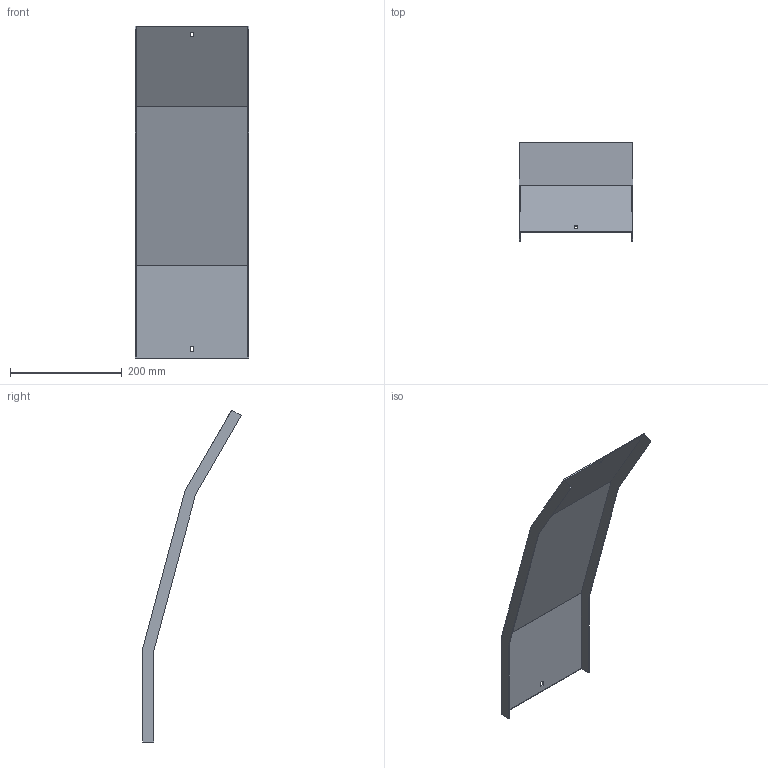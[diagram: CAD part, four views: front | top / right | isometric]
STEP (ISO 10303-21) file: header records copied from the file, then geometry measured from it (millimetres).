
FILE_DESCRIPTION (( 'STEP AP214' ), '1' );
FILE_NAME ('35N5J200.step', '2025-02-21T10:29:33', ( '' ), ( '' ), 'SwSTEP 2.0', 'SolidWorks 2023', '' );
FILE_SCHEMA (( 'AUTOMOTIVE_DESIGN' ));
Length unit declared in the file: millimetre
Products named in the file (1): 35N5J200
Bounding box: 203 x 176.54 x 594.21 mm (x, y, z)
Volume: 224941.6 mm3; surface area: 302584.4 mm2
Topology: 1 solids, 1 shells, 26 faces, 72 edges, 48 vertices
Faces by surface type: plane 26
Entity records: 847 total; most frequent: CARTESIAN_POINT 147, ORIENTED_EDGE 144, DIRECTION 126, LINE 72, VECTOR 72, EDGE_CURVE 72, VERTEX_POINT 48, EDGE_LOOP 30
